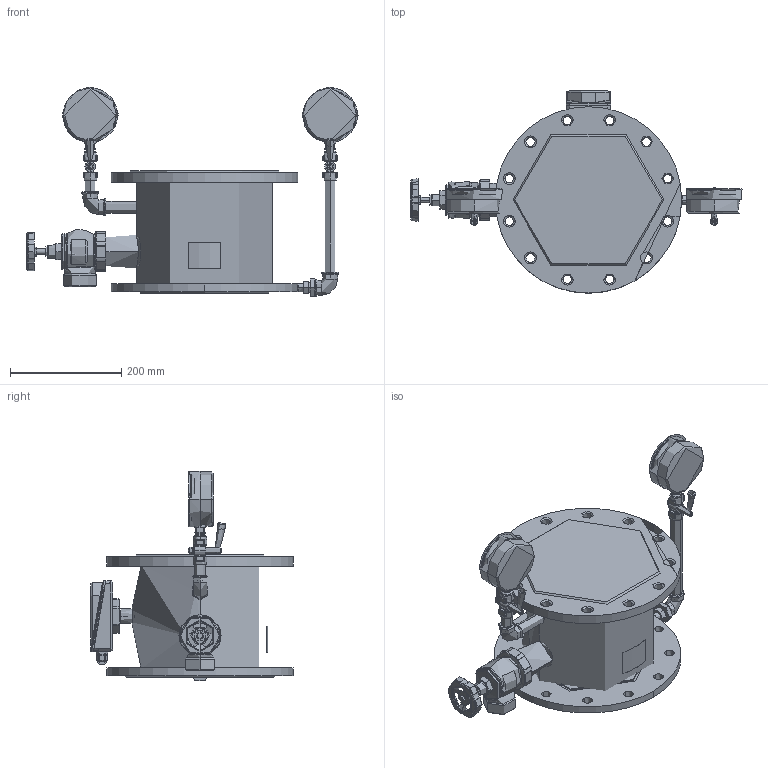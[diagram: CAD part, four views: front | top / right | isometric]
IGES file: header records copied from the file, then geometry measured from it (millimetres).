
Start section: File generated by T-FLEX CAD Version (null)
Global section: file name:           DN 200 3D.igs; native system: T-FLEX CAD; date: 211014.072421; units: millimetre
Bounding box: 596.75 x 363.84 x 376.5 mm (x, y, z)
Volume: 13245466.6 mm3; surface area: 963106.8 mm2
Topology: 22 solids, 31 shells, 2217 faces, 5373 edges, 3160 vertices
Faces by surface type: cylinder 813, plane 500, bspline 444, cone 224, revolution 190, sphere 46
